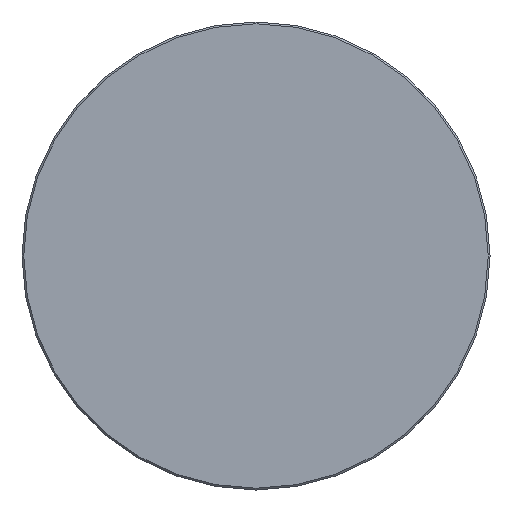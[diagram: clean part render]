
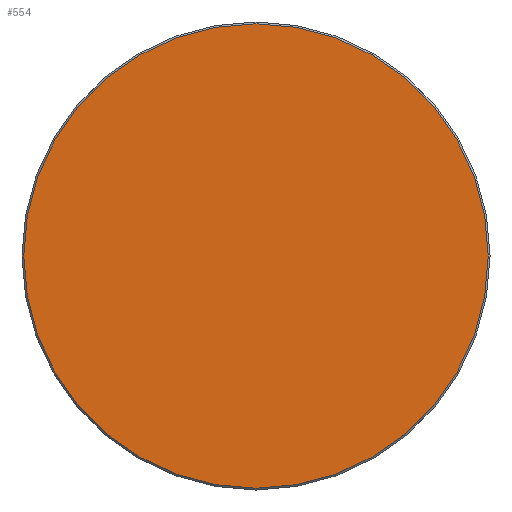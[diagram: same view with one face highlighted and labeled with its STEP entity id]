
A CAD part, left-side view. The second image highlights one B-rep face of the part: STEP entity #554.
In plain terms, the highlighted planar face has unit normal (-1, 0, 0).
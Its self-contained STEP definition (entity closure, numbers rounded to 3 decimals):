
#554 = ADVANCED_FACE ( 'NONE', ( #16436 ), #26326, .F. ) ;
#3054 = AXIS2_PLACEMENT_3D ( 'NONE', #6407, #6408, #6409 ) ;
#3113 = AXIS2_PLACEMENT_3D ( 'NONE', #6557, #6558, #6559 ) ;
#6407 = CARTESIAN_POINT ( 'NONE',  ( -39.866, -0.701, -4.083 ) ) ;
#6408 = DIRECTION ( 'NONE',  ( -1., 0., 0. ) ) ;
#6409 = DIRECTION ( 'NONE',  ( 0., 0., -1. ) ) ;
#6557 = CARTESIAN_POINT ( 'NONE',  ( -39.866, -0.701, -4.083 ) ) ;
#6558 = DIRECTION ( 'NONE',  ( -1., 0., 0. ) ) ;
#6559 = DIRECTION ( 'NONE',  ( 0., 0., -1. ) ) ;
#6898 = CARTESIAN_POINT ( 'NONE',  ( -39.866, -0.701, 21.717 ) ) ;
#7406 = CARTESIAN_POINT ( 'NONE',  ( -39.866, -0.701, -29.883 ) ) ;
#8952 = EDGE_LOOP ( 'NONE', ( #23862, #24257 ) ) ;
#15302 = EDGE_CURVE ( 'NONE', #17245, #17772, #24397, .T. ) ;
#15381 = EDGE_CURVE ( 'NONE', #17772, #17245, #24470, .T. ) ;
#16436 = FACE_OUTER_BOUND ( 'NONE', #8952, .T. ) ;
#17245 = VERTEX_POINT ( 'NONE', #6898 ) ;
#17772 = VERTEX_POINT ( 'NONE', #7406 ) ;
#17902 = AXIS2_PLACEMENT_3D ( 'NONE', #25607, #25520, #25616 ) ;
#23862 = ORIENTED_EDGE ( 'NONE', *, *, #15381, .T. ) ;
#24257 = ORIENTED_EDGE ( 'NONE', *, *, #15302, .T. ) ;
#24397 = CIRCLE ( 'NONE', #3054, 25.8 ) ;
#24470 = CIRCLE ( 'NONE', #3113, 25.8 ) ;
#25520 = DIRECTION ( 'NONE',  ( 1., 0., 0. ) ) ;
#25607 = CARTESIAN_POINT ( 'NONE',  ( -39.866, 25.299, -4.083 ) ) ;
#25616 = DIRECTION ( 'NONE',  ( 0., 0., -1. ) ) ;
#26326 = PLANE ( 'NONE',  #17902 ) ;
